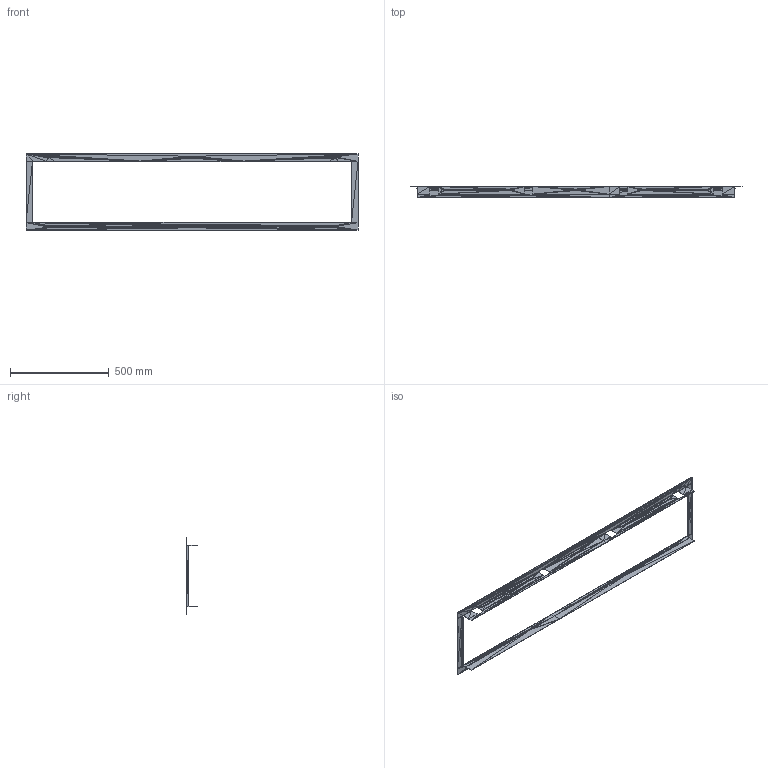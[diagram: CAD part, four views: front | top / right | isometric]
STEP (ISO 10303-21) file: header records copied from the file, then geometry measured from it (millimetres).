
FILE_DESCRIPTION((''),'2;1');
FILE_NAME('004322', '2025-07-24T07:46:09', (''), (''), 'ImageToStl.com STEP Converter','', '');
FILE_SCHEMA(('AUTOMOTIVE_DESIGN_CC2'));
Length unit declared in the file: metre
Products named in the file (1): product0
Bounding box: 1685 x 60 x 387 mm (x, y, z)
Surface area: 690050.4 mm2 (no closed solid volume)
Topology: 0 solids, 1492 shells, 1492 faces, 4476 edges, 712 vertices
Faces by surface type: plane 1492
Entity records: 34276 total; most frequent: DIRECTION 7462, ORIENTED_EDGE 4476, EDGE_CURVE 4476, LINE 4476, VECTOR 4476, AXIS2_PLACEMENT_3D 1493, FACE_SURFACE 1492, PLANE 1492
